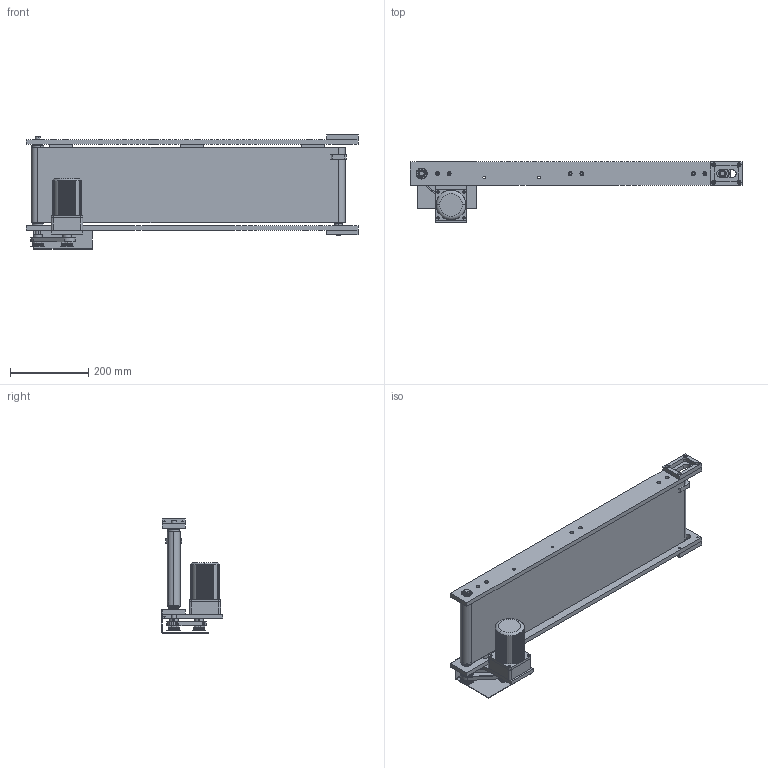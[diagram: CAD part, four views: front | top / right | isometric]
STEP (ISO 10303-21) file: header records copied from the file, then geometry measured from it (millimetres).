
FILE_DESCRIPTION(/* description */ (''),/* implementation_level */ '2;1');
FILE_NAME(/* name */ 'beltconveyor_a031_w200_l850.stp',/* time_stamp */ '2024-12-17T23:02:05+08:00',/* author */ (''),/* organization */ (''),/* preprocessor_version */ 'ST-DEVELOPER v16.7',/* originating_system */ 'SIEMENS PLM Software NX 12.0',/* authorisation */ '');
FILE_SCHEMA (('AUTOMOTIVE_DESIGN { 1 0 10303 214 3 1 1 1 }'));
Products named in the file (16): LX-5-9(电机安装板); LX-5-3(侧板); LX-5-1(护板); LX-5-15(滑动轴承座); LX-5-12(从动轴); LX-5-8(同步带); LX-5-10(欧特电机4IK25RGN); LX-5-5(主动轴); LX-5-13(深沟球轴承6001); LX-5-14(中间支撑板); LX-5-11(调节板); LX-5-2(侧板); LX-5-6(XL-18Z-20W同步轮); LX-5-4(皮带); LX-5-7(XL-18Z-20W同步轮); beltconveyor_a031_w200_l850
Assembly tree (22 placements, depth 2):
  beltconveyor_a031_w200_l850
    LX-5-7(XL-18Z-20W同步轮)
    LX-5-4(皮带)
    LX-5-6(XL-18Z-20W同步轮)
    LX-5-2(侧板)
    LX-5-11(调节板)  x2
    LX-5-14(中间支撑板)  x3
    LX-5-13(深沟球轴承6001)  x4
    LX-5-5(主动轴)
    LX-5-10(欧特电机4IK25RGN)
    LX-5-8(同步带)
    LX-5-12(从动轴)
    LX-5-15(滑动轴承座)  x2
    LX-5-1(护板)
    LX-5-3(侧板)
    LX-5-9(电机安装板)
Bounding box: 850 x 156.5 x 292 mm (x, y, z)
Volume: 3354057.1 mm3; surface area: 1241878.3 mm2
Topology: 60 solids, 60 shells, 2332 faces, 6520 edges, 4285 vertices
Faces by surface type: plane 754, cylinder 738, extrusion 369, sphere 256, torus 130, cone 85
Entity records: 67116 total; most frequent: CARTESIAN_POINT 21480, ORIENTED_EDGE 9834, DIRECTION 8016, EDGE_CURVE 4917, VERTEX_POINT 3253, AXIS2_PLACEMENT_3D 2832, VECTOR 2352, EDGE_LOOP 2014
